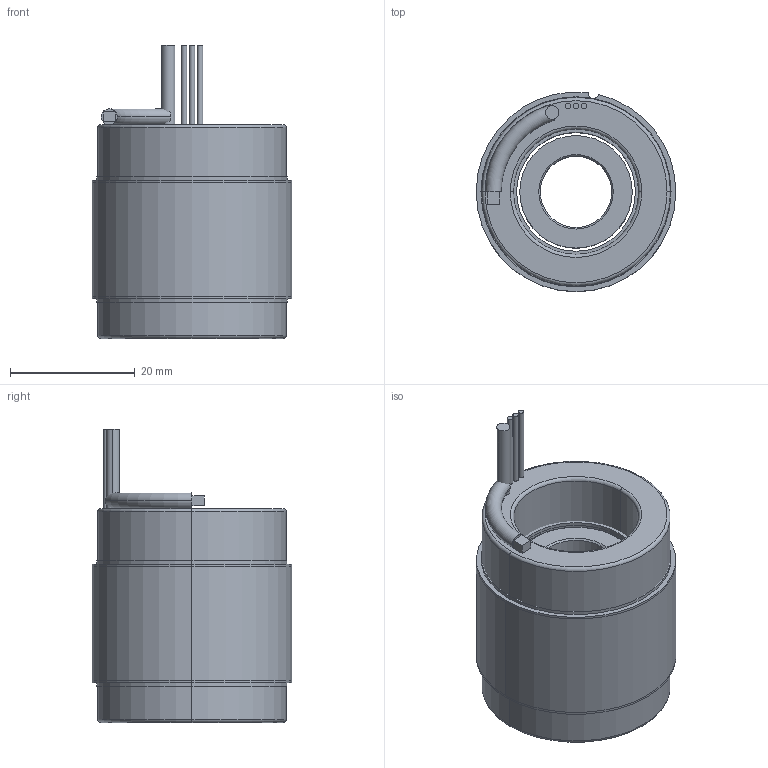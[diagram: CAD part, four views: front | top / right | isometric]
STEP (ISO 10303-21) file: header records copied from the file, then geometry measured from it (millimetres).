
FILE_DESCRIPTION (( 'STEP AP214' ), '1' );
FILE_NAME ('6100335-02.STEP', '2019-10-23T19:57:46', ( '' ), ( '' ), 'SwSTEP 2.0', 'SolidWorks 2016', '' );
FILE_SCHEMA (( 'AUTOMOTIVE_DESIGN' ));
Length unit declared in the file: millimetre
Products named in the file (11): 4400096-00; 4450178-XX_4450178-02; 4250359-XX_4250359-02; 4150165-XX_4150165-02; 4500538-XX_4500538-02; 6100335-02; 4600475-00; COMP4500538-XX(COIL)_COMP4500538-02(COIL)
Assembly tree (10 placements, depth 4):
  6100335-02
    4500538-XX_4500538-02
      COMP4500538-XX(COIL)_COMP4500538-02(COIL)
      4450178-XX_4450178-02
        4450178-XX_4450178-02
        4400096-00
        4400096-00
        4600475-00
        4600475-00
    4250359-XX_4250359-02
      4150165-XX_4150165-02
Bounding box: 32 x 31.99 x 46.99 mm (x, y, z)
Volume: 27145.6 mm3; surface area: 16692.5 mm2
Topology: 12 solids, 12 shells, 90 faces, 178 edges, 112 vertices
Faces by surface type: cylinder 44, plane 32, torus 10, cone 4
Entity records: 2841 total; most frequent: DIRECTION 508, CARTESIAN_POINT 396, ORIENTED_EDGE 356, AXIS2_PLACEMENT_3D 224, EDGE_CURVE 178, CIRCLE 118, VERTEX_POINT 112, EDGE_LOOP 104
